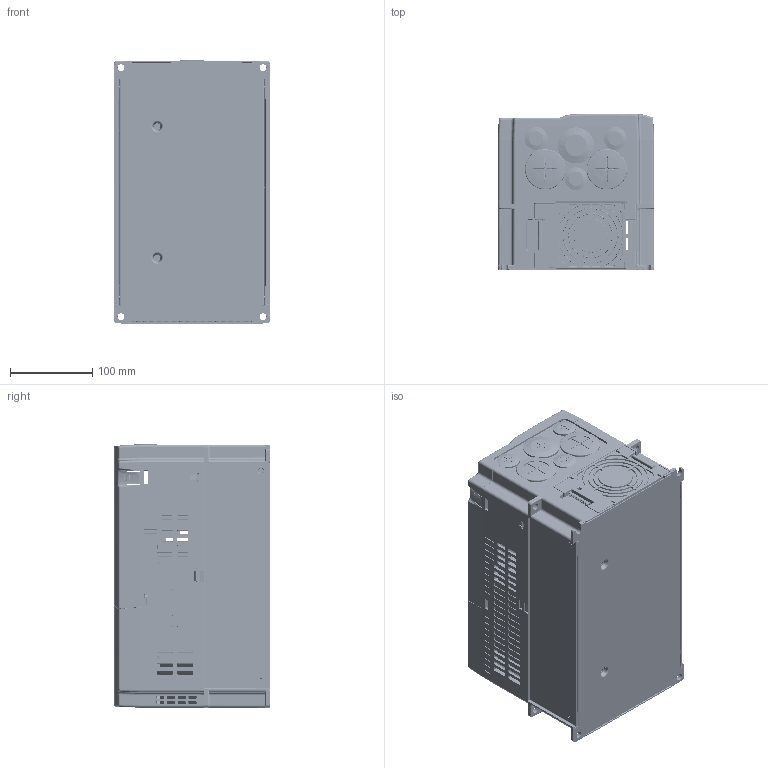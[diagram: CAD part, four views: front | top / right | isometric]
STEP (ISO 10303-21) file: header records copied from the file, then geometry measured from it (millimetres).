
FILE_DESCRIPTION((''),'2;1');
FILE_NAME('ASM0001_ASM','2019-02-13T',('DENNY.TSAI'),(''),'PRO/ENGINEER BY PARAMETRIC TECHNOLOGY CORPORATION, 2015240','PRO/ENGINEER BY PARAMETRIC TECHNOLOGY CORPORATION, 2015240','');
FILE_SCHEMA(('AUTOMOTIVE_DESIGN { 1 0 10303 214 1 1 1 1 }'));
Products named in the file (55): PRT0001; PRT0002; PRT0003; PRT0004; PRT0005; PRT0006; PRT0007; ASM0005_ASM; ASM0004_ASM; ASM0003_ASM; PRT0008; PRT0009; PRT0010; PRT0011; ASM0008_ASM; PRT0012; PRT0013; ASM0009_ASM; PRT0014; ASM0007_ASM; ASM0006_ASM; PRT0015; ASM0010_ASM; PRT0016; PRT0017; PRT0018; ASM0012_ASM; ASM0011_ASM; PRT0019; 307236393M_RJ45_NO_LED_1; PRT0020; PRT0021; PRT0022; PRT0023; PRT0024; ASM0013_ASM; PRT0025; PRT0026; PRT0027; PRT0028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
Assembly tree (74 placements, depth 6):
  ASM0001_ASM
    ASM0002_ASM
      ASM0003_ASM
        PRT0001
        PRT0002
        PRT0003
        PRT0004  x4
        ASM0004_ASM
          ASM0005_ASM
            PRT0005
            PRT0006
            PRT0007
      ASM0006_ASM
        PRT0008
        ASM0007_ASM
          PRT0009
          ASM0008_ASM  x2
            PRT0010
            PRT0011
          ASM0009_ASM  x11
            PRT0012
            PRT0013
          PRT0014
      ASM0010_ASM
        PRT0015
      ASM0011_ASM
        PRT0016
        ASM0012_ASM
          PRT0017
          PRT0018  x2
      ASM0013_ASM
        PRT0019
        307236393M_RJ45_NO_LED_1  x2
        PRT0020
        PRT0021
        PRT0022
        PRT0023
        PRT0024  x2
      ASM0014_ASM
        PRT0025
        PRT0026  x3
        PRT0027  x2
        PRT0028
      ASM0015_ASM
        ASM0016_ASM
          PRT0029
          PRT0030
          PRT0031
      ASM0017_ASM
        PRT0032
        PRT0033
      ASM0018_ASM
        PRT0034
        PRT0035
      PRT0036
Bounding box: 190 x 190 x 320.6 mm (x, y, z)
Volume: 2833945.1 mm3; surface area: 1125637.2 mm2
Topology: 62 solids, 65 shells, 13087 faces, 36004 edges, 23428 vertices
Faces by surface type: plane 7399, cylinder 2274, cone 1479, extrusion 978, bspline 556, torus 268, sphere 133
Entity records: 384675 total; most frequent: CARTESIAN_POINT 115255, ORIENTED_EDGE 59224, DIRECTION 49105, EDGE_CURVE 29612, VECTOR 19987, VERTEX_POINT 19290, LINE 19204, AXIS2_PLACEMENT_3D 14559
